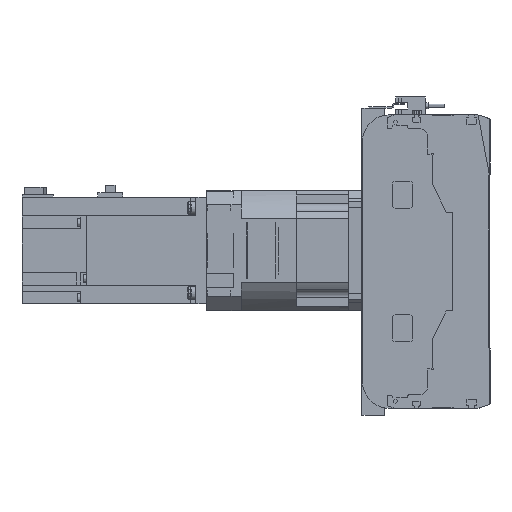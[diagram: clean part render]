
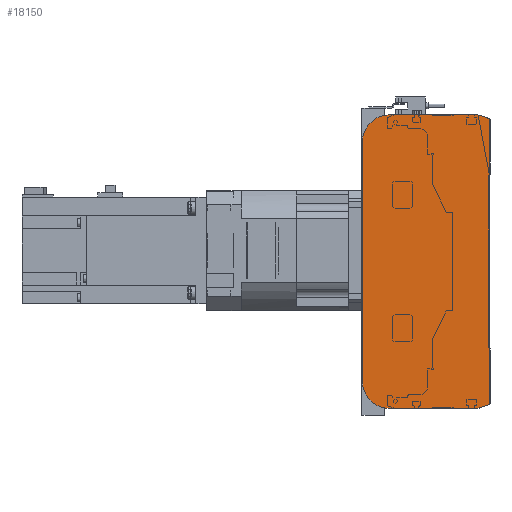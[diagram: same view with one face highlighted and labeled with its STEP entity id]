
A CAD part, left-side view. The second image highlights one B-rep face of the part: STEP entity #18150.
In plain terms, the highlighted planar face has unit normal (-1, 0, 0).
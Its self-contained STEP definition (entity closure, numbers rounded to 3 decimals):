
#1032=CIRCLE('',#19786,20.);
#1033=CIRCLE('',#19789,20.);
#4554=ORIENTED_EDGE('',*,*,#7880,.F.);
#4555=ORIENTED_EDGE('',*,*,#7922,.F.);
#4556=ORIENTED_EDGE('',*,*,#7920,.F.);
#4557=ORIENTED_EDGE('',*,*,#7918,.F.);
#4558=ORIENTED_EDGE('',*,*,#7907,.F.);
#4559=ORIENTED_EDGE('',*,*,#7898,.F.);
#4560=ORIENTED_EDGE('',*,*,#7894,.F.);
#4561=ORIENTED_EDGE('',*,*,#7891,.F.);
#7880=EDGE_CURVE('',#9887,#9888,#11515,.T.);
#7891=EDGE_CURVE('',#9888,#9895,#11526,.T.);
#7894=EDGE_CURVE('',#9895,#9897,#11529,.T.);
#7898=EDGE_CURVE('',#9897,#9898,#11533,.T.);
#7907=EDGE_CURVE('',#9898,#9904,#11542,.T.);
#7918=EDGE_CURVE('',#9904,#9911,#1032,.T.);
#7920=EDGE_CURVE('',#9911,#9912,#11554,.T.);
#7922=EDGE_CURVE('',#9912,#9887,#1033,.T.);
#9887=VERTEX_POINT('',#29936);
#9888=VERTEX_POINT('',#29938);
#9895=VERTEX_POINT('',#29957);
#9897=VERTEX_POINT('',#29963);
#9898=VERTEX_POINT('',#29969);
#9904=VERTEX_POINT('',#29985);
#9911=VERTEX_POINT('',#30004);
#9912=VERTEX_POINT('',#30008);
#11515=LINE('',#29937,#13090);
#11526=LINE('',#29956,#13101);
#11529=LINE('',#29962,#13104);
#11533=LINE('',#29968,#13108);
#11542=LINE('',#29984,#13117);
#11554=LINE('',#30007,#13129);
#13090=VECTOR('',#23989,1000.);
#13101=VECTOR('',#24002,1000.);
#13104=VECTOR('',#24007,1000.);
#13108=VECTOR('',#24013,1000.);
#13117=VECTOR('',#24024,1000.);
#13129=VECTOR('',#24042,1000.);
#14514=EDGE_LOOP('',(#4554,#4555,#4556,#4557,#4558,#4559,#4560,#4561));
#16170=FACE_BOUND('',#14514,.T.);
#17265=PLANE('',#19790);
#18150=ADVANCED_FACE('',(#16170),#17265,.F.);
#19786=AXIS2_PLACEMENT_3D('',#30003,#24037,#24038);
#19789=AXIS2_PLACEMENT_3D('',#30011,#24046,#24047);
#19790=AXIS2_PLACEMENT_3D('',#30012,#24048,#24049);
#23989=DIRECTION('',(0.,-1.,0.));
#24002=DIRECTION('',(0.,-0.945,-0.328));
#24007=DIRECTION('',(0.,0.,-1.));
#24013=DIRECTION('',(0.,0.945,-0.328));
#24024=DIRECTION('',(0.,1.,0.));
#24037=DIRECTION('',(1.,0.,0.));
#24038=DIRECTION('',(0.,0.,-1.));
#24042=DIRECTION('',(0.,0.,1.));
#24046=DIRECTION('',(1.,0.,0.));
#24047=DIRECTION('',(0.,0.,-1.));
#24048=DIRECTION('',(1.,0.,0.));
#24049=DIRECTION('',(0.,0.,-1.));
#29936=CARTESIAN_POINT('',(0.,75.5,110.));
#29937=CARTESIAN_POINT('',(0.,75.5,110.));
#29938=CARTESIAN_POINT('',(0.,9.,110.));
#29956=CARTESIAN_POINT('',(0.,9.,110.));
#29957=CARTESIAN_POINT('',(0.,0.5,107.05));
#29962=CARTESIAN_POINT('',(0.,0.5,107.05));
#29963=CARTESIAN_POINT('',(0.,0.5,-107.05));
#29968=CARTESIAN_POINT('',(0.,0.5,-107.05));
#29969=CARTESIAN_POINT('',(0.,9.,-110.));
#29984=CARTESIAN_POINT('',(0.,9.,-110.));
#29985=CARTESIAN_POINT('',(0.,75.5,-110.));
#30003=CARTESIAN_POINT('',(0.,75.5,-90.));
#30004=CARTESIAN_POINT('',(0.,95.5,-90.));
#30007=CARTESIAN_POINT('',(0.,95.5,-90.));
#30008=CARTESIAN_POINT('',(0.,95.5,90.));
#30011=CARTESIAN_POINT('',(0.,75.5,90.));
#30012=CARTESIAN_POINT('',(0.,75.5,-90.));
